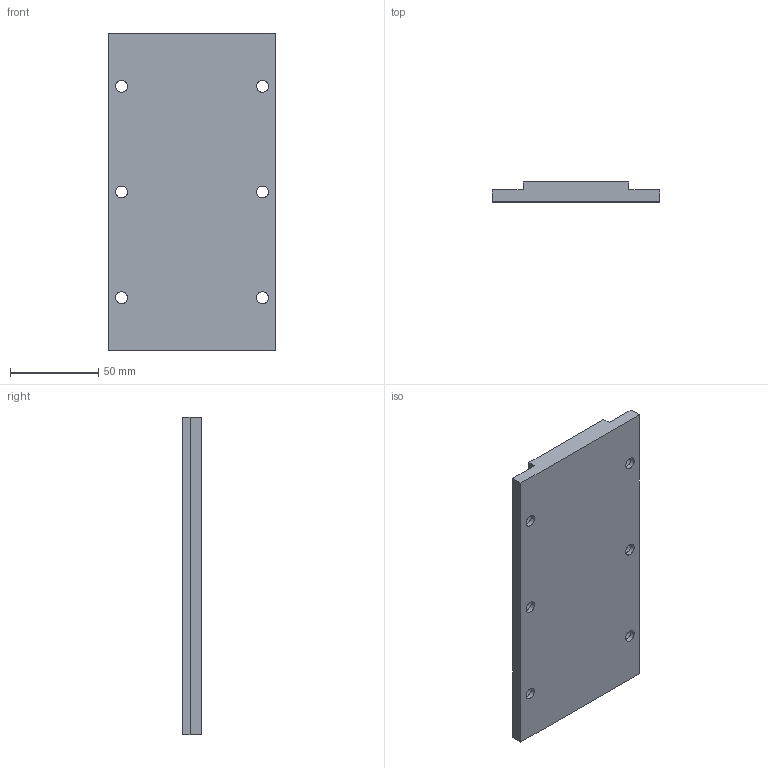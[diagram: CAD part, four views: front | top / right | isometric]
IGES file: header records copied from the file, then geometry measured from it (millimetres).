
Global section: file name: R10-180M-x; native system: Autodesk Inventor 2014; preprocessor: unknown; author: jevans; date: 20170609.083035; units: inch
Bounding box: 95 x 11.1 x 180 mm (x, y, z)
Volume: 158730.3 mm3; surface area: 40739.6 mm2
Topology: 1 solids, 1 shells, 28 faces, 72 edges, 52 vertices
Faces by surface type: bspline 28
